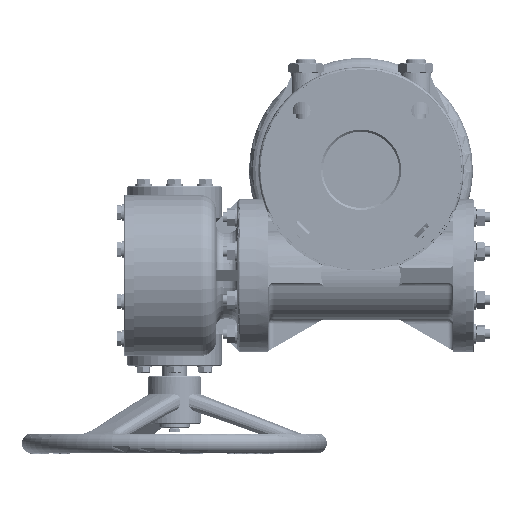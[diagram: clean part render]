
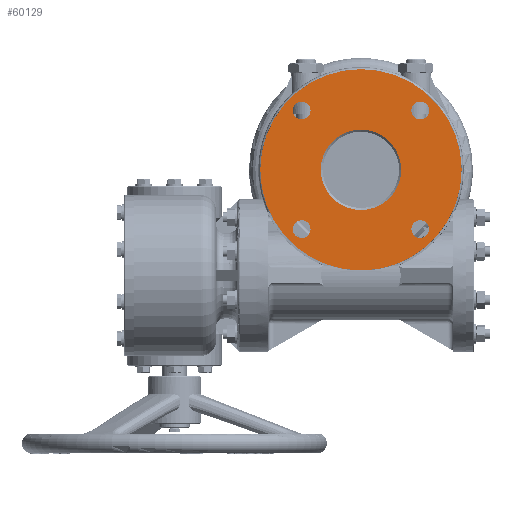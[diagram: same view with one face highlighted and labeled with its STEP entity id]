
A CAD part, front view. The second image highlights one B-rep face of the part: STEP entity #60129.
In plain terms, the highlighted planar face has unit normal (0, -1, 0).
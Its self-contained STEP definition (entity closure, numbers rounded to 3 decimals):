
#1976 = VERTEX_POINT ( 'NONE', #2793 ) ;
#2793 = CARTESIAN_POINT ( 'NONE',  ( -58.336, 0., 67.086 ) ) ;
#2944 = VERTEX_POINT ( 'NONE', #128122 ) ;
#3581 = ORIENTED_EDGE ( 'NONE', *, *, #149256, .F. ) ;
#6551 = CARTESIAN_POINT ( 'NONE',  ( 58.336, 0., 58.336 ) ) ;
#6900 = CIRCLE ( 'NONE', #26099, 39.5 ) ;
#7096 = ORIENTED_EDGE ( 'NONE', *, *, #161469, .F. ) ;
#8912 = DIRECTION ( 'NONE',  ( 0., -1., 0. ) ) ;
#10135 = VERTEX_POINT ( 'NONE', #84510 ) ;
#11075 = DIRECTION ( 'NONE',  ( 0., -1., 0. ) ) ;
#12899 = DIRECTION ( 'NONE',  ( 0., -1., 0. ) ) ;
#13372 = CIRCLE ( 'NONE', #120539, 8.75 ) ;
#16776 = DIRECTION ( 'NONE',  ( 0., -1., 0. ) ) ;
#17186 = EDGE_CURVE ( 'NONE', #25637, #1976, #77622, .T. ) ;
#25637 = VERTEX_POINT ( 'NONE', #163781 ) ;
#26099 = AXIS2_PLACEMENT_3D ( 'NONE', #222899, #222127, #39463 ) ;
#27410 = CARTESIAN_POINT ( 'NONE',  ( 0., 0., 39.5 ) ) ;
#27767 = EDGE_CURVE ( 'NONE', #178808, #198962, #124813, .T. ) ;
#28002 = AXIS2_PLACEMENT_3D ( 'NONE', #101351, #120503, #46253 ) ;
#29030 = AXIS2_PLACEMENT_3D ( 'NONE', #140328, #11075, #121177 ) ;
#30706 = FACE_OUTER_BOUND ( 'NONE', #228585, .T. ) ;
#31097 = PLANE ( 'NONE',  #28002 ) ;
#35882 = EDGE_LOOP ( 'NONE', ( #145925, #145936 ) ) ;
#39463 = DIRECTION ( 'NONE',  ( 0., 0., -1. ) ) ;
#41464 = CARTESIAN_POINT ( 'NONE',  ( -58.336, 0., -58.336 ) ) ;
#42258 = CIRCLE ( 'NONE', #165486, 8.75 ) ;
#46253 = DIRECTION ( 'NONE',  ( 0., 0., -1. ) ) ;
#47014 = DIRECTION ( 'NONE',  ( 0., 0., -1. ) ) ;
#50808 = CIRCLE ( 'NONE', #122893, 99. ) ;
#54975 = CARTESIAN_POINT ( 'NONE',  ( 0., 0., 0. ) ) ;
#55208 = VERTEX_POINT ( 'NONE', #27410 ) ;
#58466 = VERTEX_POINT ( 'NONE', #196648 ) ;
#60116 = ORIENTED_EDGE ( 'NONE', *, *, #17186, .F. ) ;
#60129 = ADVANCED_FACE ( 'NONE', ( #93397, #67803, #201854, #176261, #153334, #30706 ), #31097, .T. ) ;
#61460 = DIRECTION ( 'NONE',  ( 0., 0., -1. ) ) ;
#61472 = DIRECTION ( 'NONE',  ( 0., -1., 0. ) ) ;
#62272 = DIRECTION ( 'NONE',  ( 0., -1., 0. ) ) ;
#66137 = CARTESIAN_POINT ( 'NONE',  ( 0., 0., -39.5 ) ) ;
#67803 = FACE_BOUND ( 'NONE', #152329, .T. ) ;
#67838 = CARTESIAN_POINT ( 'NONE',  ( -58.336, 0., 58.336 ) ) ;
#69800 = EDGE_LOOP ( 'NONE', ( #211863, #147456 ) ) ;
#73170 = EDGE_CURVE ( 'NONE', #58466, #215912, #168892, .T. ) ;
#74905 = CARTESIAN_POINT ( 'NONE',  ( -58.336, 0., -67.086 ) ) ;
#77622 = CIRCLE ( 'NONE', #100332, 8.75 ) ;
#79176 = DIRECTION ( 'NONE',  ( 0., 0., -1. ) ) ;
#82096 = DIRECTION ( 'NONE',  ( 0., -1., 0. ) ) ;
#82971 = DIRECTION ( 'NONE',  ( 0., 1., 0. ) ) ;
#84423 = CARTESIAN_POINT ( 'NONE',  ( -58.336, 0., -49.586 ) ) ;
#84510 = CARTESIAN_POINT ( 'NONE',  ( 58.336, 0., 49.586 ) ) ;
#86879 = AXIS2_PLACEMENT_3D ( 'NONE', #67838, #195426, #157170 ) ;
#87865 = DIRECTION ( 'NONE',  ( 0., 0., -1. ) ) ;
#89041 = DIRECTION ( 'NONE',  ( 0., -1., 0. ) ) ;
#89366 = DIRECTION ( 'NONE',  ( 0., 0., -1. ) ) ;
#91067 = CIRCLE ( 'NONE', #234297, 8.75 ) ;
#93397 = FACE_BOUND ( 'NONE', #35882, .T. ) ;
#95012 = EDGE_CURVE ( 'NONE', #100396, #208927, #13372, .T. ) ;
#96745 = ORIENTED_EDGE ( 'NONE', *, *, #27767, .F. ) ;
#98317 = DIRECTION ( 'NONE',  ( 0., -1., 0. ) ) ;
#99310 = EDGE_LOOP ( 'NONE', ( #60116, #213570 ) ) ;
#100332 = AXIS2_PLACEMENT_3D ( 'NONE', #155464, #82096, #172997 ) ;
#100396 = VERTEX_POINT ( 'NONE', #84423 ) ;
#101072 = CIRCLE ( 'NONE', #111731, 39.5 ) ;
#101128 = EDGE_CURVE ( 'NONE', #131435, #55208, #6900, .T. ) ;
#101351 = CARTESIAN_POINT ( 'NONE',  ( 37.5, 0., 0. ) ) ;
#102235 = EDGE_CURVE ( 'NONE', #55208, #131435, #101072, .T. ) ;
#105429 = CARTESIAN_POINT ( 'NONE',  ( 0., 0., 0. ) ) ;
#111039 = AXIS2_PLACEMENT_3D ( 'NONE', #6551, #98317, #79176 ) ;
#111731 = AXIS2_PLACEMENT_3D ( 'NONE', #156334, #82971, #47014 ) ;
#112634 = ORIENTED_EDGE ( 'NONE', *, *, #95012, .F. ) ;
#116644 = CARTESIAN_POINT ( 'NONE',  ( -58.336, 0., -58.336 ) ) ;
#116922 = CIRCLE ( 'NONE', #222721, 8.75 ) ;
#120503 = DIRECTION ( 'NONE',  ( 0., -1., 0. ) ) ;
#120539 = AXIS2_PLACEMENT_3D ( 'NONE', #116644, #8912, #172443 ) ;
#121177 = DIRECTION ( 'NONE',  ( 0., 0., -1. ) ) ;
#122893 = AXIS2_PLACEMENT_3D ( 'NONE', #54975, #16776, #89366 ) ;
#124501 = CARTESIAN_POINT ( 'NONE',  ( 0., 0., -99. ) ) ;
#124813 = CIRCLE ( 'NONE', #29030, 8.75 ) ;
#125471 = AXIS2_PLACEMENT_3D ( 'NONE', #105429, #12899, #87865 ) ;
#128122 = CARTESIAN_POINT ( 'NONE',  ( 58.336, 0., 67.086 ) ) ;
#131435 = VERTEX_POINT ( 'NONE', #66137 ) ;
#132484 = DIRECTION ( 'NONE',  ( 0., 0., -1. ) ) ;
#138444 = ORIENTED_EDGE ( 'NONE', *, *, #73170, .T. ) ;
#140328 = CARTESIAN_POINT ( 'NONE',  ( 58.336, 0., -58.336 ) ) ;
#145925 = ORIENTED_EDGE ( 'NONE', *, *, #101128, .T. ) ;
#145936 = ORIENTED_EDGE ( 'NONE', *, *, #102235, .T. ) ;
#145988 = ORIENTED_EDGE ( 'NONE', *, *, #162873, .T. ) ;
#147456 = ORIENTED_EDGE ( 'NONE', *, *, #187220, .F. ) ;
#149256 = EDGE_CURVE ( 'NONE', #208927, #100396, #116922, .T. ) ;
#152329 = EDGE_LOOP ( 'NONE', ( #3581, #112634 ) ) ;
#153334 = FACE_BOUND ( 'NONE', #165755, .T. ) ;
#154783 = CARTESIAN_POINT ( 'NONE',  ( 58.336, 0., 58.336 ) ) ;
#155464 = CARTESIAN_POINT ( 'NONE',  ( -58.336, 0., 58.336 ) ) ;
#156334 = CARTESIAN_POINT ( 'NONE',  ( 0., 0., 0. ) ) ;
#157170 = DIRECTION ( 'NONE',  ( 0., 0., -1. ) ) ;
#159855 = CARTESIAN_POINT ( 'NONE',  ( 58.336, 0., -49.586 ) ) ;
#161469 = EDGE_CURVE ( 'NONE', #198962, #178808, #91067, .T. ) ;
#162873 = EDGE_CURVE ( 'NONE', #215912, #58466, #50808, .T. ) ;
#163781 = CARTESIAN_POINT ( 'NONE',  ( -58.336, 0., 49.586 ) ) ;
#165486 = AXIS2_PLACEMENT_3D ( 'NONE', #154783, #62272, #61460 ) ;
#165755 = EDGE_LOOP ( 'NONE', ( #7096, #96745 ) ) ;
#168892 = CIRCLE ( 'NONE', #125471, 99. ) ;
#170794 = CIRCLE ( 'NONE', #111039, 8.75 ) ;
#172443 = DIRECTION ( 'NONE',  ( 0., 0., -1. ) ) ;
#172997 = DIRECTION ( 'NONE',  ( 0., 0., -1. ) ) ;
#176261 = FACE_BOUND ( 'NONE', #69800, .T. ) ;
#177159 = EDGE_CURVE ( 'NONE', #1976, #25637, #194885, .T. ) ;
#178808 = VERTEX_POINT ( 'NONE', #159855 ) ;
#179940 = CARTESIAN_POINT ( 'NONE',  ( 58.336, 0., -58.336 ) ) ;
#187220 = EDGE_CURVE ( 'NONE', #2944, #10135, #42258, .T. ) ;
#194299 = CARTESIAN_POINT ( 'NONE',  ( 58.336, 0., -67.086 ) ) ;
#194885 = CIRCLE ( 'NONE', #86879, 8.75 ) ;
#195426 = DIRECTION ( 'NONE',  ( 0., -1., 0. ) ) ;
#196648 = CARTESIAN_POINT ( 'NONE',  ( 0., 0., 99. ) ) ;
#198962 = VERTEX_POINT ( 'NONE', #194299 ) ;
#201854 = FACE_BOUND ( 'NONE', #99310, .T. ) ;
#208927 = VERTEX_POINT ( 'NONE', #74905 ) ;
#211863 = ORIENTED_EDGE ( 'NONE', *, *, #224608, .F. ) ;
#213570 = ORIENTED_EDGE ( 'NONE', *, *, #177159, .F. ) ;
#215912 = VERTEX_POINT ( 'NONE', #124501 ) ;
#217394 = DIRECTION ( 'NONE',  ( 0., 0., -1. ) ) ;
#222127 = DIRECTION ( 'NONE',  ( 0., 1., 0. ) ) ;
#222721 = AXIS2_PLACEMENT_3D ( 'NONE', #41464, #61472, #132484 ) ;
#222899 = CARTESIAN_POINT ( 'NONE',  ( 0., 0., 0. ) ) ;
#224608 = EDGE_CURVE ( 'NONE', #10135, #2944, #170794, .T. ) ;
#228585 = EDGE_LOOP ( 'NONE', ( #145988, #138444 ) ) ;
#234297 = AXIS2_PLACEMENT_3D ( 'NONE', #179940, #89041, #217394 ) ;
